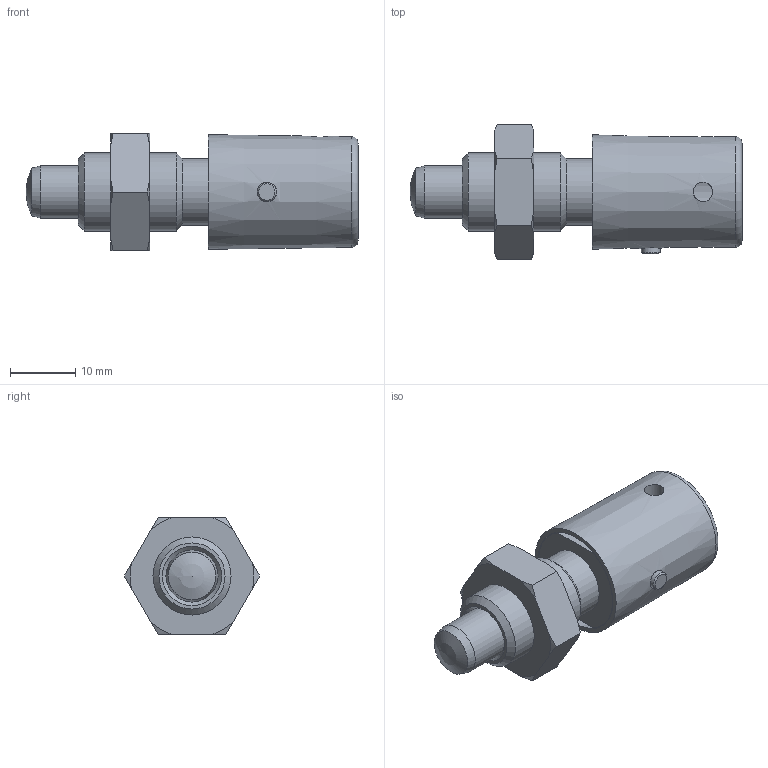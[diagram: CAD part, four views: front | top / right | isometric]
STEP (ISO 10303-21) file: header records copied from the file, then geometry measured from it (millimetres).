
FILE_DESCRIPTION( ( 'STEP AP203' ), '1' );
FILE_NAME( 'C:/Temp/Ganter_Step_05_03_2020/data/3_1/gn816/gn_816_bk/Locking plunger GN 816-8-M12x1,5-BK (deactivated).stp', '2020-03-12T08:56:01', ( 'License CC BY-ND 4.0' ), ( 'CADENAS' ), ' ', 'PARTsolutions', ' ' );
FILE_SCHEMA( ( 'CONFIG_CONTROL_DESIGN' ) );
Length unit declared in the file: millimetre
Products named in the file (4): Locking plunger GN 816-8-M12x1,5-BK (deactivated); _GN 816-8-M12x1,5-B(0)-b2; _GN 816-8-M12x1,5-Bb1; _Lock nut ISO 8675 GN 816-8-M12x1,5-AK
Assembly tree (3 placements, depth 2):
  Locking plunger GN 816-8-M12x1,5-BK (deactivated)
    _GN 816-8-M12x1,5-B(0)-b2
    _GN 816-8-M12x1,5-Bb1
    _Lock nut ISO 8675 GN 816-8-M12x1,5-AK
Bounding box: 51 x 20.78 x 18 mm (x, y, z)
Volume: 7339.1 mm3; surface area: 6114.1 mm2
Topology: 3 solids, 3 shells, 61 faces, 134 edges, 86 vertices
Faces by surface type: cone 23, plane 21, cylinder 14, torus 2, sphere 1
Full cylindrical faces by diameter (mm): 2.9 x2, 3 x2, 5.9 x1, 8 x2, 10.2 x1, 10.376 x1, 11.1 x1, 12 x1, 16.2 x1
Entity records: 1979 total; most frequent: CARTESIAN_POINT 624, DIRECTION 252, ORIENTED_EDGE 208, AXIS2_PLACEMENT_3D 113, EDGE_CURVE 104, EDGE_LOOP 102, VERTEX_POINT 83, FACE_OUTER_BOUND 75
